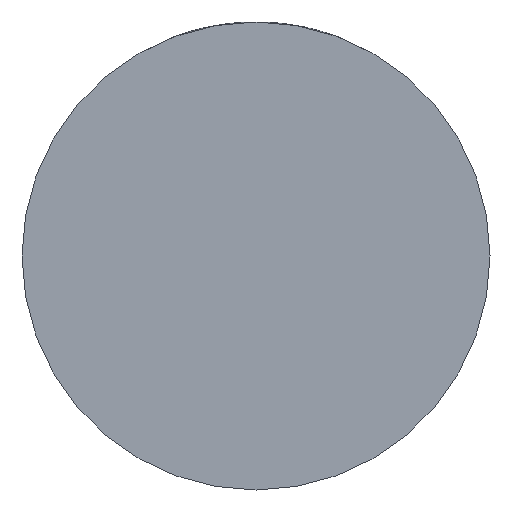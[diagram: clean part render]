
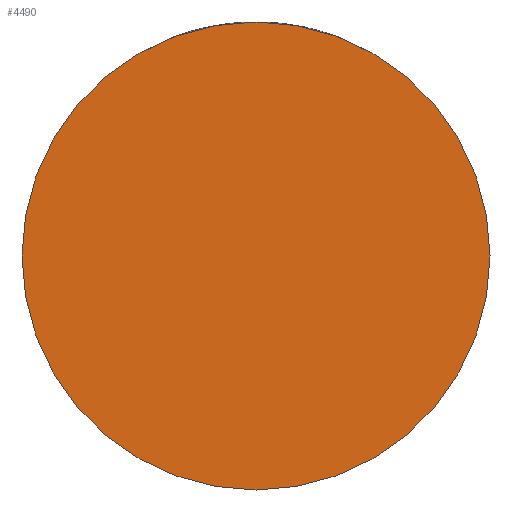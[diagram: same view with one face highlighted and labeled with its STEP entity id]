
A CAD part, front view. The second image highlights one B-rep face of the part: STEP entity #4490.
In plain terms, the highlighted planar face has unit normal (0, -1, 0).
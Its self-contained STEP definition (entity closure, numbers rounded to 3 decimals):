
#353 = DIRECTION ( 'NONE',  ( 0., 1., 0. ) ) ;
#727 = AXIS2_PLACEMENT_3D ( 'NONE', #4067, #5310, #2827 ) ;
#787 = DIRECTION ( 'NONE',  ( -1., 0., 0. ) ) ;
#1479 = CARTESIAN_POINT ( 'NONE',  ( 27.5, -20., 0. ) ) ;
#1508 = AXIS2_PLACEMENT_3D ( 'NONE', #4691, #4714, #2645 ) ;
#1814 = FACE_OUTER_BOUND ( 'NONE', #4753, .T. ) ;
#2179 = ORIENTED_EDGE ( 'NONE', *, *, #3917, .F. ) ;
#2347 = CARTESIAN_POINT ( 'NONE',  ( 0., -20., 0. ) ) ;
#2645 = DIRECTION ( 'NONE',  ( 1., 0., 0. ) ) ;
#2827 = DIRECTION ( 'NONE',  ( -1., 0., 0. ) ) ;
#3453 = VERTEX_POINT ( 'NONE', #1479 ) ;
#3458 = PLANE ( 'NONE',  #1508 ) ;
#3578 = EDGE_CURVE ( 'NONE', #3613, #3453, #4720, .T. ) ;
#3613 = VERTEX_POINT ( 'NONE', #4830 ) ;
#3917 = EDGE_CURVE ( 'NONE', #3453, #3613, #4205, .T. ) ;
#4067 = CARTESIAN_POINT ( 'NONE',  ( 0., -20., 0. ) ) ;
#4205 = CIRCLE ( 'NONE', #727, 27.5 ) ;
#4294 = AXIS2_PLACEMENT_3D ( 'NONE', #2347, #353, #787 ) ;
#4490 = ADVANCED_FACE ( 'NONE', ( #1814 ), #3458, .T. ) ;
#4691 = CARTESIAN_POINT ( 'NONE',  ( 0., -20., 0. ) ) ;
#4714 = DIRECTION ( 'NONE',  ( 0., -1., 0. ) ) ;
#4720 = CIRCLE ( 'NONE', #4294, 27.5 ) ;
#4753 = EDGE_LOOP ( 'NONE', ( #5122, #2179 ) ) ;
#4830 = CARTESIAN_POINT ( 'NONE',  ( -27.5, -20., 0. ) ) ;
#5122 = ORIENTED_EDGE ( 'NONE', *, *, #3578, .F. ) ;
#5310 = DIRECTION ( 'NONE',  ( 0., 1., 0. ) ) ;
